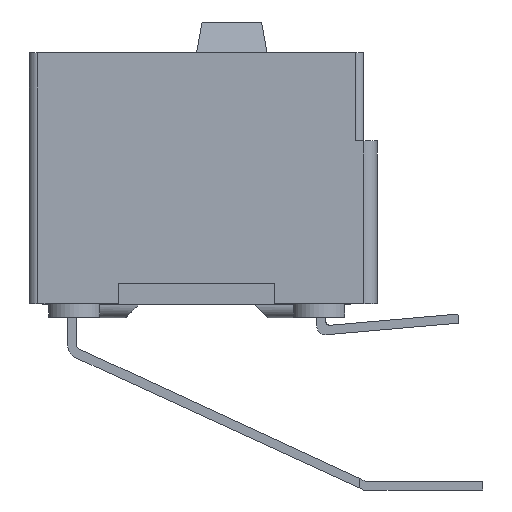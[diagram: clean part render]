
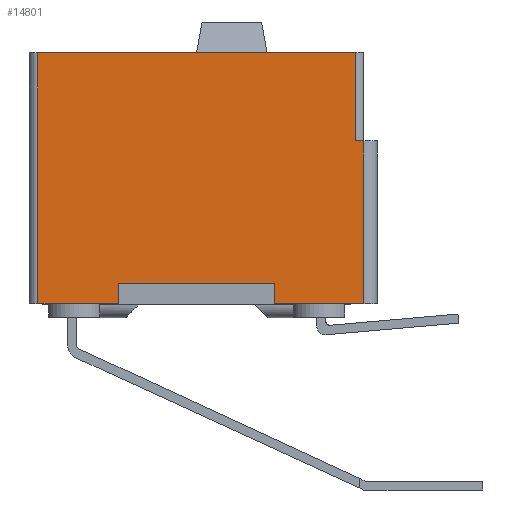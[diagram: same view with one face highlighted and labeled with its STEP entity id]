
A CAD part, left-side view. The second image highlights one B-rep face of the part: STEP entity #14801.
In plain terms, the highlighted planar face has unit normal (-1, 0, 0).
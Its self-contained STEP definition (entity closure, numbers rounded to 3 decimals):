
#32 = FACE_OUTER_BOUND ( 'NONE', #11998, .T. ) ;
#54 = CARTESIAN_POINT ( 'NONE',  ( 0., -1.295, -7.239 ) ) ;
#815 = CARTESIAN_POINT ( 'NONE',  ( 0., -9.652, -7.239 ) ) ;
#1328 = ORIENTED_EDGE ( 'NONE', *, *, #4825, .T. ) ;
#1341 = VECTOR ( 'NONE', #9728, 1000. ) ;
#1705 = LINE ( 'NONE', #13354, #4512 ) ;
#1717 = LINE ( 'NONE', #5190, #3423 ) ;
#1733 = DIRECTION ( 'NONE',  ( 0., -1., 0. ) ) ;
#1795 = CARTESIAN_POINT ( 'NONE',  ( 0., -2.576, -6.639 ) ) ;
#2147 = CARTESIAN_POINT ( 'NONE',  ( 0., -7.076, -6.639 ) ) ;
#2324 = ORIENTED_EDGE ( 'NONE', *, *, #5278, .T. ) ;
#2553 = DIRECTION ( 'NONE',  ( 0., 0., -1. ) ) ;
#2566 = VECTOR ( 'NONE', #13339, 1000. ) ;
#3062 = ORIENTED_EDGE ( 'NONE', *, *, #23947, .F. ) ;
#3325 = VERTEX_POINT ( 'NONE', #54 ) ;
#3423 = VECTOR ( 'NONE', #14744, 1000. ) ;
#3572 = EDGE_CURVE ( 'NONE', #12829, #3325, #22571, .T. ) ;
#3723 = VERTEX_POINT ( 'NONE', #9671 ) ;
#3747 = CARTESIAN_POINT ( 'NONE',  ( 0., -0.25, -7.239 ) ) ;
#4265 = VERTEX_POINT ( 'NONE', #9126 ) ;
#4360 = EDGE_CURVE ( 'NONE', #7291, #20962, #11464, .T. ) ;
#4512 = VECTOR ( 'NONE', #7410, 1000. ) ;
#4728 = ORIENTED_EDGE ( 'NONE', *, *, #13472, .F. ) ;
#4825 = EDGE_CURVE ( 'NONE', #8915, #3723, #19157, .T. ) ;
#4951 = CARTESIAN_POINT ( 'NONE',  ( 0., -0.25, 0. ) ) ;
#5190 = CARTESIAN_POINT ( 'NONE',  ( 0., -9.402, -2.54 ) ) ;
#5246 = DIRECTION ( 'NONE',  ( 0., -1., 0. ) ) ;
#5278 = EDGE_CURVE ( 'NONE', #3723, #13743, #1705, .T. ) ;
#5370 = CARTESIAN_POINT ( 'NONE',  ( 0., -7.076, -6.639 ) ) ;
#6145 = ORIENTED_EDGE ( 'NONE', *, *, #3572, .T. ) ;
#6226 = LINE ( 'NONE', #13796, #7102 ) ;
#6270 = CARTESIAN_POINT ( 'NONE',  ( 0., -2.576, -7.239 ) ) ;
#6498 = ORIENTED_EDGE ( 'NONE', *, *, #18907, .F. ) ;
#6605 = CARTESIAN_POINT ( 'NONE',  ( 0., -0.25, -7.239 ) ) ;
#6662 = CARTESIAN_POINT ( 'NONE',  ( 0., -9.652, -2.54 ) ) ;
#6951 = VERTEX_POINT ( 'NONE', #815 ) ;
#7102 = VECTOR ( 'NONE', #19505, 1000. ) ;
#7154 = ORIENTED_EDGE ( 'NONE', *, *, #12055, .T. ) ;
#7191 = CARTESIAN_POINT ( 'NONE',  ( 0., -0.25, -7.239 ) ) ;
#7291 = VERTEX_POINT ( 'NONE', #24315 ) ;
#7384 = DIRECTION ( 'NONE',  ( 0., -1., 0. ) ) ;
#7404 = CARTESIAN_POINT ( 'NONE',  ( 0., -9.402, -2.54 ) ) ;
#7410 = DIRECTION ( 'NONE',  ( 0., -1., 0. ) ) ;
#7494 = VERTEX_POINT ( 'NONE', #7404 ) ;
#8915 = VERTEX_POINT ( 'NONE', #5370 ) ;
#9126 = CARTESIAN_POINT ( 'NONE',  ( 0., -9.652, -2.54 ) ) ;
#9204 = EDGE_CURVE ( 'NONE', #12829, #22279, #13800, .T. ) ;
#9671 = CARTESIAN_POINT ( 'NONE',  ( 0., -7.076, -7.239 ) ) ;
#9728 = DIRECTION ( 'NONE',  ( 0., 0., -1. ) ) ;
#9827 = DIRECTION ( 'NONE',  ( 0., -1., 0. ) ) ;
#11321 = DIRECTION ( 'NONE',  ( -1., 0., 0. ) ) ;
#11362 = LINE ( 'NONE', #22768, #2566 ) ;
#11432 = PLANE ( 'NONE',  #15401 ) ;
#11464 = LINE ( 'NONE', #1795, #22742 ) ;
#11928 = DIRECTION ( 'NONE',  ( 0., 0., 1. ) ) ;
#11998 = EDGE_LOOP ( 'NONE', ( #17611, #3062, #1328, #2324, #7154, #4728, #14122, #13415, #6498, #21535, #6145, #22574 ) ) ;
#12055 = EDGE_CURVE ( 'NONE', #13743, #6951, #18400, .T. ) ;
#12659 = VECTOR ( 'NONE', #2553, 1000. ) ;
#12829 = VERTEX_POINT ( 'NONE', #19423 ) ;
#13339 = DIRECTION ( 'NONE',  ( 0., 1., 0. ) ) ;
#13354 = CARTESIAN_POINT ( 'NONE',  ( 0., -0.25, -7.239 ) ) ;
#13415 = ORIENTED_EDGE ( 'NONE', *, *, #16186, .T. ) ;
#13472 = EDGE_CURVE ( 'NONE', #4265, #6951, #19564, .T. ) ;
#13743 = VERTEX_POINT ( 'NONE', #23616 ) ;
#13772 = CARTESIAN_POINT ( 'NONE',  ( 0., -0.25, 0. ) ) ;
#13796 = CARTESIAN_POINT ( 'NONE',  ( 0., -0.25, -7.239 ) ) ;
#13800 = LINE ( 'NONE', #6605, #18082 ) ;
#14122 = ORIENTED_EDGE ( 'NONE', *, *, #22445, .T. ) ;
#14744 = DIRECTION ( 'NONE',  ( 0., 1., 0. ) ) ;
#14801 = ADVANCED_FACE ( 'NONE', ( #32 ), #11432, .T. ) ;
#15098 = EDGE_CURVE ( 'NONE', #3325, #20962, #6226, .T. ) ;
#15401 = AXIS2_PLACEMENT_3D ( 'NONE', #3747, #11321, #9827 ) ;
#16186 = EDGE_CURVE ( 'NONE', #7494, #16253, #16699, .T. ) ;
#16253 = VERTEX_POINT ( 'NONE', #20804 ) ;
#16699 = LINE ( 'NONE', #24038, #22169 ) ;
#17611 = ORIENTED_EDGE ( 'NONE', *, *, #4360, .F. ) ;
#18082 = VECTOR ( 'NONE', #11928, 1000. ) ;
#18218 = DIRECTION ( 'NONE',  ( 0., 0., 1. ) ) ;
#18400 = LINE ( 'NONE', #22119, #20579 ) ;
#18907 = EDGE_CURVE ( 'NONE', #22279, #16253, #20194, .T. ) ;
#19157 = LINE ( 'NONE', #2147, #1341 ) ;
#19168 = DIRECTION ( 'NONE',  ( 0., 0., -1. ) ) ;
#19423 = CARTESIAN_POINT ( 'NONE',  ( 0., -0.25, -7.239 ) ) ;
#19505 = DIRECTION ( 'NONE',  ( 0., -1., 0. ) ) ;
#19564 = LINE ( 'NONE', #6662, #12659 ) ;
#20194 = LINE ( 'NONE', #4951, #21463 ) ;
#20579 = VECTOR ( 'NONE', #5246, 1000. ) ;
#20804 = CARTESIAN_POINT ( 'NONE',  ( 0., -9.402, 0. ) ) ;
#20897 = VECTOR ( 'NONE', #1733, 1000. ) ;
#20962 = VERTEX_POINT ( 'NONE', #6270 ) ;
#21463 = VECTOR ( 'NONE', #7384, 1000. ) ;
#21535 = ORIENTED_EDGE ( 'NONE', *, *, #9204, .F. ) ;
#22119 = CARTESIAN_POINT ( 'NONE',  ( 0., -0.25, -7.239 ) ) ;
#22169 = VECTOR ( 'NONE', #18218, 1000. ) ;
#22279 = VERTEX_POINT ( 'NONE', #13772 ) ;
#22445 = EDGE_CURVE ( 'NONE', #4265, #7494, #1717, .T. ) ;
#22571 = LINE ( 'NONE', #7191, #20897 ) ;
#22574 = ORIENTED_EDGE ( 'NONE', *, *, #15098, .T. ) ;
#22742 = VECTOR ( 'NONE', #19168, 1000. ) ;
#22768 = CARTESIAN_POINT ( 'NONE',  ( 0., -2.576, -6.639 ) ) ;
#23616 = CARTESIAN_POINT ( 'NONE',  ( 0., -8.357, -7.239 ) ) ;
#23947 = EDGE_CURVE ( 'NONE', #8915, #7291, #11362, .T. ) ;
#24038 = CARTESIAN_POINT ( 'NONE',  ( 0., -9.402, -7.239 ) ) ;
#24315 = CARTESIAN_POINT ( 'NONE',  ( 0., -2.576, -6.639 ) ) ;
